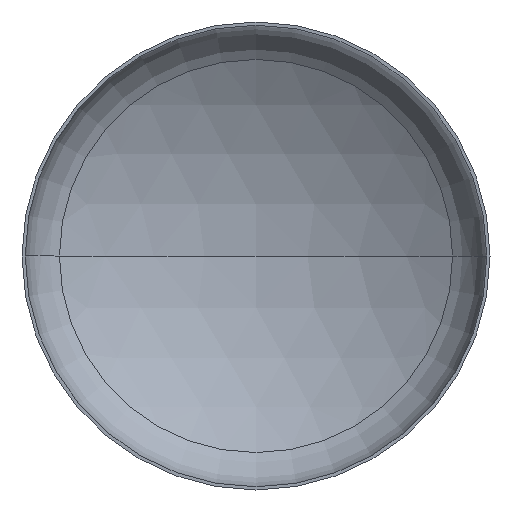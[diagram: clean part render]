
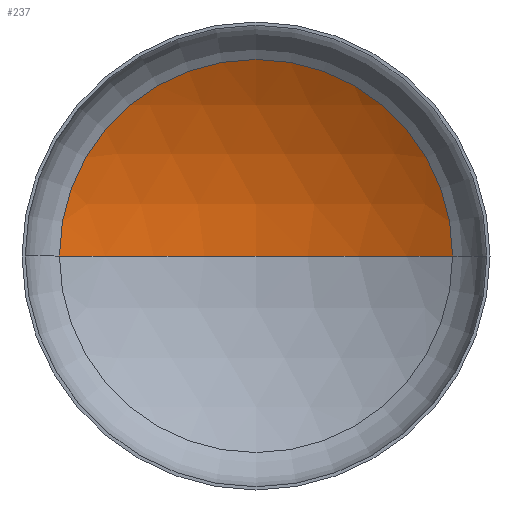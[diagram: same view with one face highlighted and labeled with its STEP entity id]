
A CAD part, front view. The second image highlights one B-rep face of the part: STEP entity #237.
In plain terms, the highlighted spherical face has radius 5200 mm.
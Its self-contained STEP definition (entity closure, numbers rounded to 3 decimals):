
#3 = DIRECTION ( 'NONE',  ( -1., 0., 0. ) ) ;
#5 = DIRECTION ( 'NONE',  ( 0., 0., -1. ) ) ;
#7 = CARTESIAN_POINT ( 'NONE',  ( 0., -3434.629, 0. ) ) ;
#45 = ORIENTED_EDGE ( 'NONE', *, *, #248, .F. ) ;
#51 = VERTEX_POINT ( 'NONE', #294 ) ;
#94 = AXIS2_PLACEMENT_3D ( 'NONE', #7, #259, #285 ) ;
#105 = AXIS2_PLACEMENT_3D ( 'NONE', #303, #298, #136 ) ;
#108 = AXIS2_PLACEMENT_3D ( 'NONE', #311, #5, #3 ) ;
#112 = SPHERICAL_SURFACE ( 'NONE', #105, 5200. ) ;
#119 = AXIS2_PLACEMENT_3D ( 'NONE', #171, #131, #134 ) ;
#131 = DIRECTION ( 'NONE',  ( 0., -1., 0. ) ) ;
#134 = DIRECTION ( 'NONE',  ( 1., 0., 0. ) ) ;
#136 = DIRECTION ( 'NONE',  ( -1., 0., 0. ) ) ;
#171 = CARTESIAN_POINT ( 'NONE',  ( 0., 991.102, 0. ) ) ;
#178 = VERTEX_POINT ( 'NONE', #327 ) ;
#181 = CARTESIAN_POINT ( 'NONE',  ( 2730., 991.102, 0. ) ) ;
#188 = EDGE_LOOP ( 'NONE', ( #45, #203, #211 ) ) ;
#203 = ORIENTED_EDGE ( 'NONE', *, *, #240, .T. ) ;
#211 = ORIENTED_EDGE ( 'NONE', *, *, #236, .T. ) ;
#226 = CIRCLE ( 'NONE', #94, 5200. ) ;
#236 = EDGE_CURVE ( 'NONE', #269, #51, #300, .T. ) ;
#237 = ADVANCED_FACE ( 'NONE', ( #373 ), #112, .F. ) ;
#240 = EDGE_CURVE ( 'NONE', #178, #269, #409, .T. ) ;
#248 = EDGE_CURVE ( 'NONE', #178, #51, #226, .T. ) ;
#259 = DIRECTION ( 'NONE',  ( 0., 0., 1. ) ) ;
#269 = VERTEX_POINT ( 'NONE', #181 ) ;
#285 = DIRECTION ( 'NONE',  ( 1., 0., 0. ) ) ;
#294 = CARTESIAN_POINT ( 'NONE',  ( -2730., 991.102, 0. ) ) ;
#298 = DIRECTION ( 'NONE',  ( 0., 0., -1. ) ) ;
#300 = CIRCLE ( 'NONE', #119, 2730. ) ;
#303 = CARTESIAN_POINT ( 'NONE',  ( 0., -3434.629, 0. ) ) ;
#311 = CARTESIAN_POINT ( 'NONE',  ( 0., -3434.629, 0. ) ) ;
#327 = CARTESIAN_POINT ( 'NONE',  ( 0., 1765.371, 0. ) ) ;
#373 = FACE_OUTER_BOUND ( 'NONE', #188, .T. ) ;
#409 = CIRCLE ( 'NONE', #108, 5200. ) ;
